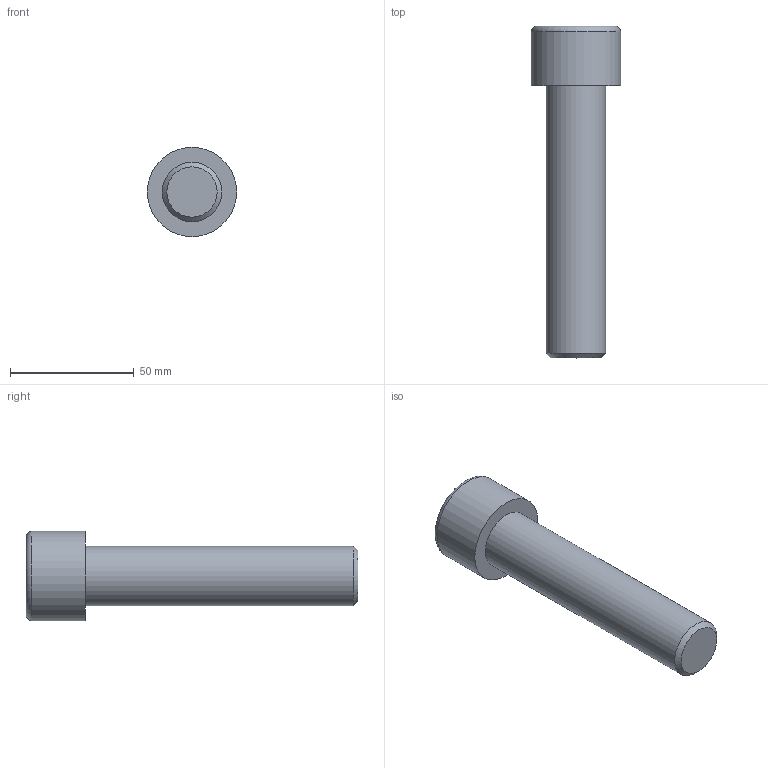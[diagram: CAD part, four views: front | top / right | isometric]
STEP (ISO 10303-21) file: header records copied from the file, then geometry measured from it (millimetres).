
FILE_DESCRIPTION(/* description */ (''),/* implementation_level */ '2;1');
FILE_NAME(/* name */ 'C:\Users\D\Documents\Inventor\各種小物\JIS\JIS B 1176 六角穴付きボルト\M24x110.stp',/* time_stamp */ '2022-05-09T18:59:50+09:00',/* author */ ('D'),/* organization */ (''),/* preprocessor_version */ 'ST-DEVELOPER v18',/* originating_system */ 'Autodesk Inventor 2020',/* authorisation */ '');
FILE_SCHEMA (('AUTOMOTIVE_DESIGN { 1 0 10303 214 3 1 1 }'));
Length unit declared in the file: millimetre
Products named in the file (1): M1.6x2.5
Bounding box: 36 x 134 x 36 mm (x, y, z)
Volume: 69407.3 mm3; surface area: 13714 mm2
Topology: 1 solids, 1 shells, 14 faces, 33 edges, 22 vertices
Faces by surface type: plane 9, cone 2, cylinder 2, torus 1
Full cylindrical faces by diameter (mm): 24 x1, 36 x1
Entity records: 435 total; most frequent: CARTESIAN_POINT 83, ORIENTED_EDGE 64, DIRECTION 64, EDGE_CURVE 32, AXIS2_PLACEMENT_3D 24, VERTEX_POINT 22, EDGE_LOOP 16, LINE 16
